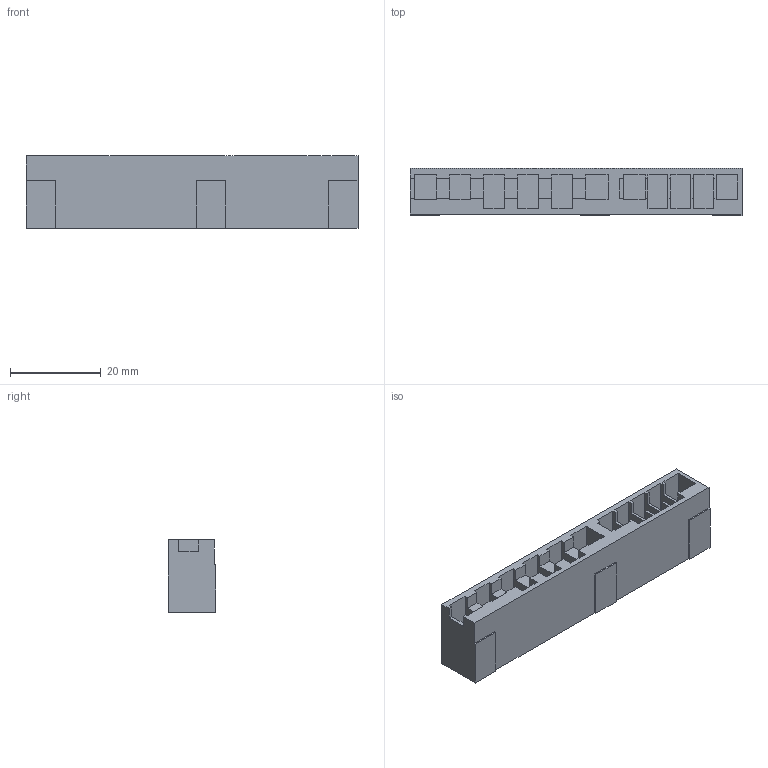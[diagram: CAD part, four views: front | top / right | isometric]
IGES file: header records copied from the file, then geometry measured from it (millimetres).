
Start section:  PTC IGES file: j5-cnp1-2.igs
Global section: file name: j5-cnp1-2.igs; native system: Creo Parametric by PTC Inc.; preprocessor: 2017480; author: BP68092; organization: Unknown; date: 20190225.135507; units: millimetre
Bounding box: 73.1 x 10.37 x 16 mm (x, y, z)
Volume: 7916.7 mm3; surface area: 6818.8 mm2
Topology: 1 solids, 1 shells, 115 faces, 336 edges, 224 vertices
Faces by surface type: bspline 115
